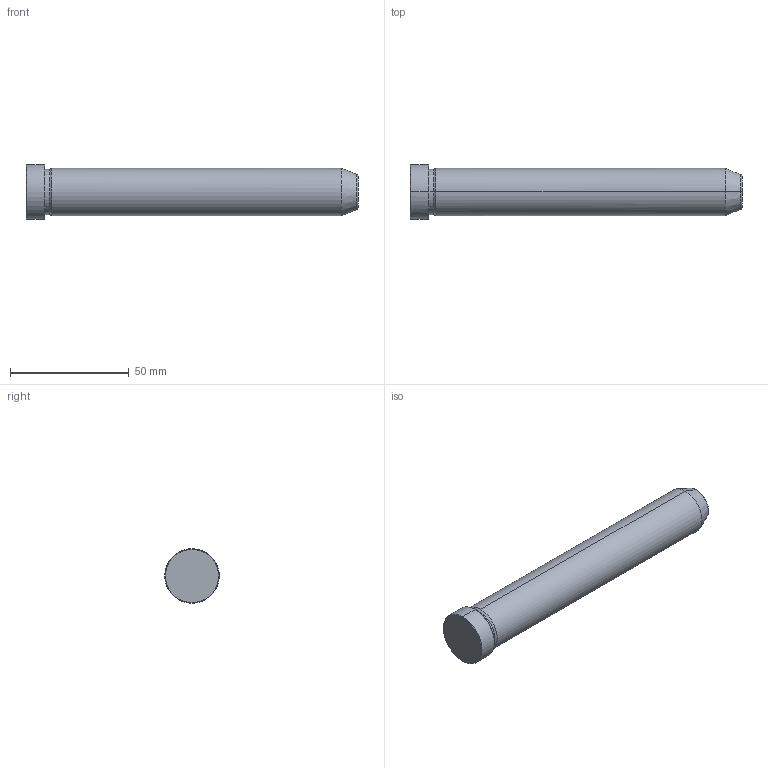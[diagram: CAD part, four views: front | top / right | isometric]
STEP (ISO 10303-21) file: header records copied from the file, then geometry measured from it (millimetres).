
FILE_DESCRIPTION(('CATIA V5 STEP Exchange'),'2;1');
FILE_NAME('C:\Users\Utente\Desktop\IO LAVORO\3D X SITO CF\X SITO\PLASTICA\549\549-20X140.stp','2021-12-11T09:52:43+00:00',('none'),('none'),'CATIA Version 5 Release 20 GA (IN-10)','CATIA V5 STEP AP203','none');
FILE_SCHEMA(('CONFIG_CONTROL_DESIGN'));
Length unit declared in the file: millimetre
Products named in the file (1): 549-20X140
Bounding box: 140 x 23 x 23 mm (x, y, z)
Volume: 44144.8 mm3; surface area: 9515.7 mm2
Topology: 1 solids, 1 shells, 19 faces, 56 edges, 40 vertices
Faces by surface type: cone 8, cylinder 6, plane 3, torus 2
Entity records: 736 total; most frequent: CARTESIAN_POINT 192, ORIENTED_EDGE 112, DIRECTION 86, EDGE_CURVE 56, AXIS2_PLACEMENT_3D 54, VERTEX_POINT 40, CIRCLE 34, EDGE_LOOP 20
